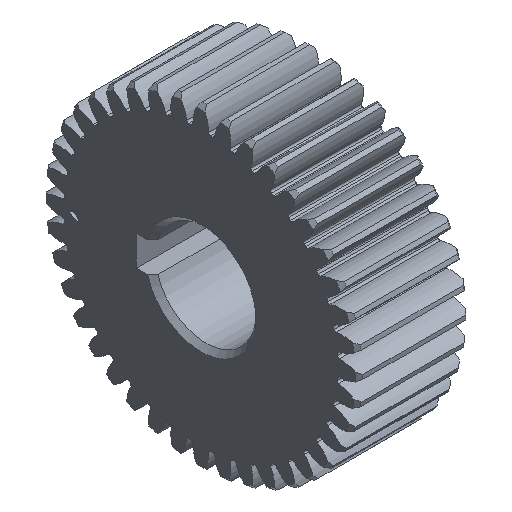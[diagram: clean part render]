
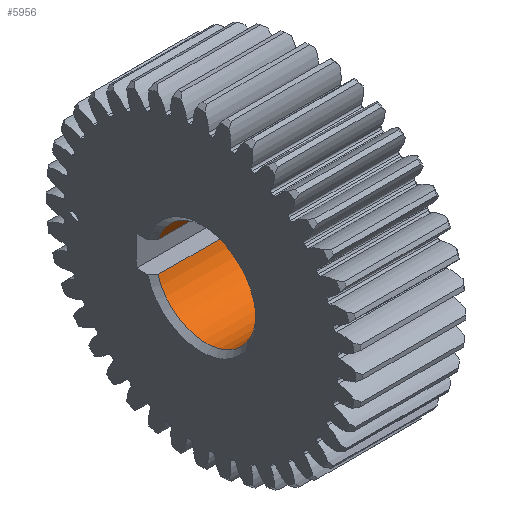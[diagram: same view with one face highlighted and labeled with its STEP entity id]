
A CAD part, isometric view. The second image highlights one B-rep face of the part: STEP entity #5956.
In plain terms, the highlighted cylindrical face has radius 10 mm (diameter 20 mm), a partial arc.
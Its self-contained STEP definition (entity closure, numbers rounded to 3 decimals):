
#179=CYLINDRICAL_SURFACE('',#6317,10.);
#421=CIRCLE('',#6316,10.);
#422=CIRCLE('',#6318,10.);
#1079=FACE_OUTER_BOUND('',#1415,.T.);
#1415=EDGE_LOOP('',(#3976,#3977,#3978,#3979));
#1764=LINE('',#9330,#2032);
#1765=LINE('',#9333,#2033);
#2032=VECTOR('',#7250,10.);
#2033=VECTOR('',#7253,10.);
#2294=VERTEX_POINT('',#9316);
#2297=VERTEX_POINT('',#9323);
#2298=VERTEX_POINT('',#9329);
#2299=VERTEX_POINT('',#9331);
#2967=EDGE_CURVE('',#2297,#2294,#421,.T.);
#2968=EDGE_CURVE('',#2297,#2298,#1764,.T.);
#2969=EDGE_CURVE('',#2299,#2298,#422,.T.);
#2970=EDGE_CURVE('',#2294,#2299,#1765,.T.);
#3976=ORIENTED_EDGE('',*,*,#2967,.F.);
#3977=ORIENTED_EDGE('',*,*,#2968,.T.);
#3978=ORIENTED_EDGE('',*,*,#2969,.F.);
#3979=ORIENTED_EDGE('',*,*,#2970,.F.);
#5956=ADVANCED_FACE('',(#1079),#179,.F.);
#6316=AXIS2_PLACEMENT_3D('',#9327,#7246,#7247);
#6317=AXIS2_PLACEMENT_3D('',#9328,#7248,#7249);
#6318=AXIS2_PLACEMENT_3D('',#9332,#7251,#7252);
#7246=DIRECTION('center_axis',(1.,0.,0.));
#7247=DIRECTION('ref_axis',(0.,-0.954,-0.3));
#7248=DIRECTION('center_axis',(1.,0.,0.));
#7249=DIRECTION('ref_axis',(0.,-0.954,-0.3));
#7250=DIRECTION('',(1.,0.,0.));
#7251=DIRECTION('center_axis',(-1.,0.,0.));
#7252=DIRECTION('ref_axis',(0.,-0.954,-0.3));
#7253=DIRECTION('',(1.,0.,0.));
#9316=CARTESIAN_POINT('',(-10.,9.539,-3.));
#9323=CARTESIAN_POINT('',(-10.,9.539,3.));
#9327=CARTESIAN_POINT('Origin',(-10.,0.,0.));
#9328=CARTESIAN_POINT('Origin',(0.,0.,0.));
#9329=CARTESIAN_POINT('',(10.,9.539,3.));
#9330=CARTESIAN_POINT('',(0.,9.539,3.));
#9331=CARTESIAN_POINT('',(10.,9.539,-3.));
#9332=CARTESIAN_POINT('Origin',(10.,0.,0.));
#9333=CARTESIAN_POINT('',(0.,9.539,-3.));
